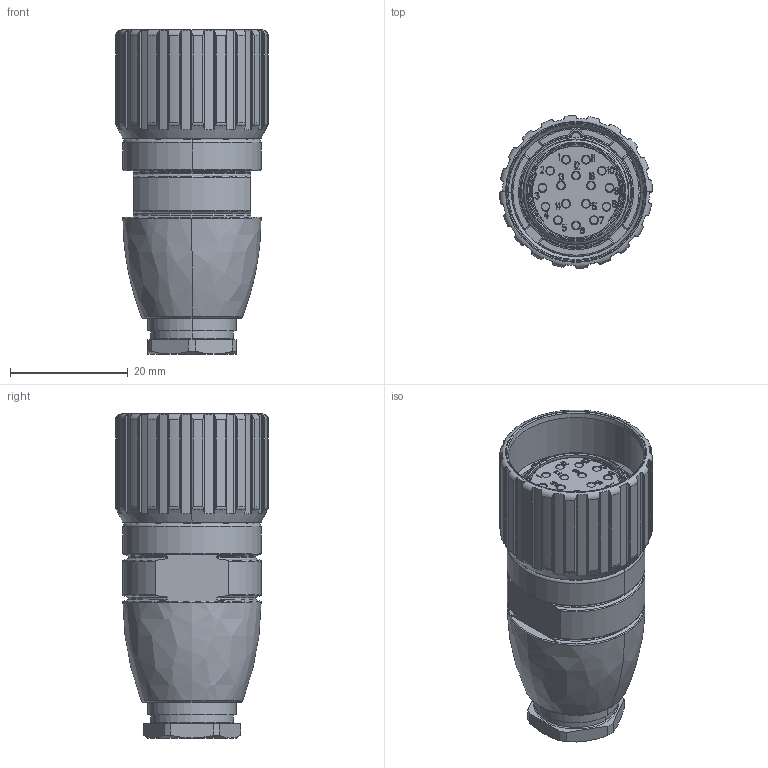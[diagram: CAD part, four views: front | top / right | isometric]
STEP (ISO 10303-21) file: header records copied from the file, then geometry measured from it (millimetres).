
FILE_DESCRIPTION((''),'2;1');
FILE_NAME('RC-16S1N121520','2011-08-09T',('JSCHEREMET'),(''),'PRO/ENGINEER BY PARAMETRIC TECHNOLOGY CORPORATION, 2010430','PRO/ENGINEER BY PARAMETRIC TECHNOLOGY CORPORATION, 2010430','');
FILE_SCHEMA(('AUTOMOTIVE_DESIGN { 1 0 10303 214 1 1 1 1 }'));
Length unit declared in the file: millimetre
Products named in the file (1): RC-16S1N121520
Bounding box: 26 x 26 x 55.15 mm (x, y, z)
Volume: 18300.2 mm3; surface area: 6965.8 mm2
Topology: 1 solids, 1 shells, 1109 faces, 3082 edges, 2032 vertices
Faces by surface type: plane 774, cylinder 189, torus 70, cone 64, bspline 12
Entity records: 37287 total; most frequent: CARTESIAN_POINT 9189, ORIENTED_EDGE 6164, DIRECTION 5268, EDGE_CURVE 3082, VECTOR 2276, LINE 2276, VERTEX_POINT 2032, AXIS2_PLACEMENT_3D 1496
